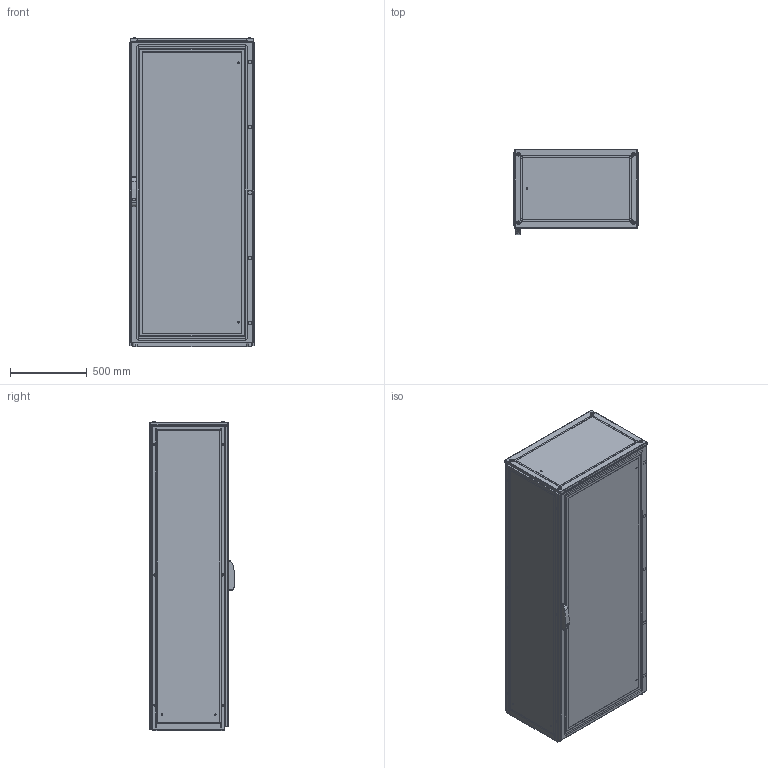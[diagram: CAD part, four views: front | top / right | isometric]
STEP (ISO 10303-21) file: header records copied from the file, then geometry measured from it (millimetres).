
FILE_DESCRIPTION(/* description */ ('STEP AP214'),/* implementation_level */ '2;1');
FILE_NAME(/* name */ 'ENUX082005PR-LOD350',/* time_stamp */ '2025-10-03T09:42:25+02:00',/* author */ ('License CC BY-ND 4.0'),/* organization */ ('CADENAS'),/* preprocessor_version */ 'ST-DEVELOPER v19.3',/* originating_system */ 'PARTsolutions',/* authorisation */ ' ');
FILE_SCHEMA (('AUTOMOTIVE_DESIGN {1 0 10303 214 3 1 1}'));
Length unit declared in the file: millimetre
Products named in the file (10): ENUX082005PR-LOD350; ENUX082005PR-LOD350_CON; ENUX082005PR-LOD350_floor1; ENUX082005PR-LOD350_floor2; Screw M12x30 architecture 350; ENUX082005PR-LOD350_side; ENUX082005PR-LOD350_top; ENUX082005PR-LOD350_back_door; ENUX082005PR-LOD350_door; ENUX082005PR-LOD350_handle
Assembly tree (15 placements, depth 2):
  ENUX082005PR-LOD350
    ENUX082005PR-LOD350_CON
    ENUX082005PR-LOD350_floor1  x2
    ENUX082005PR-LOD350_floor2  x2
    Screw M12x30 architecture 350  x4
    ENUX082005PR-LOD350_side  x2
    ENUX082005PR-LOD350_top
    ENUX082005PR-LOD350_back_door
    ENUX082005PR-LOD350_door
    ENUX082005PR-LOD350_handle
Bounding box: 812 x 557 x 2014.1 mm (x, y, z)
Volume: 20872250 mm3; surface area: 17875231.7 mm2
Topology: 15 solids, 15 shells, 1794 faces, 5055 edges, 3300 vertices
Faces by surface type: plane 880, cylinder 749, cone 77, torus 72, sphere 16
Full cylindrical faces by diameter (mm): 4.5 x144, 6 x14, 6.8 x8, 9 x9, 12 x16, 13 x4, 18 x1, 21 x4
Entity records: 48915 total; most frequent: DIRECTION 8471, CARTESIAN_POINT 8462, ORIENTED_EDGE 7944, EDGE_CURVE 3972, AXIS2_PLACEMENT_3D 3031, VERTEX_POINT 2781, LINE 2409, VECTOR 2409
